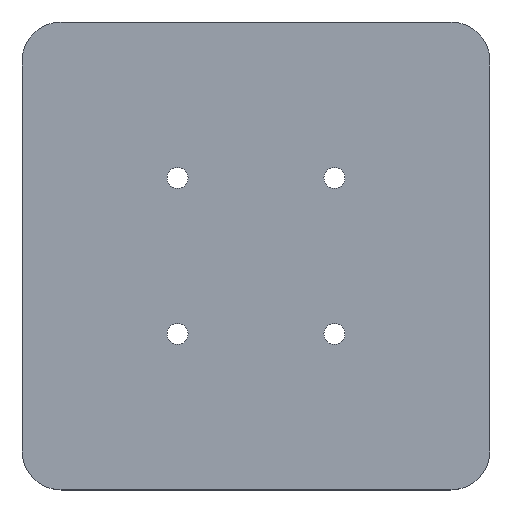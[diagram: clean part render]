
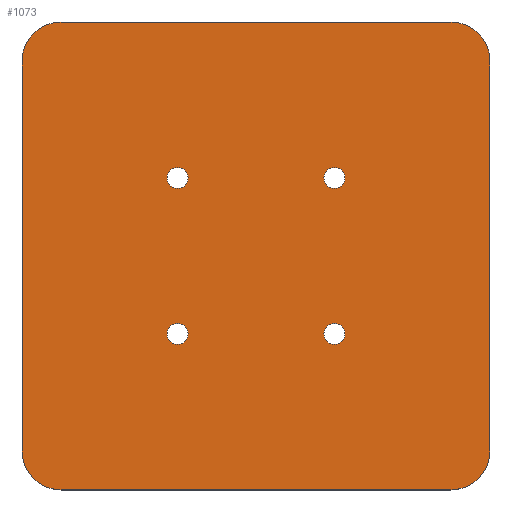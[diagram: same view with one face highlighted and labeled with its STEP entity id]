
A CAD part, top view. The second image highlights one B-rep face of the part: STEP entity #1073.
In plain terms, the highlighted planar face has unit normal (0, 0, 1).
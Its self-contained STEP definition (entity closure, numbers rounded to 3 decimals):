
#19 = AXIS2_PLACEMENT_3D ( 'NONE', #320, #1016, #405 ) ;
#22 = CARTESIAN_POINT ( 'NONE',  ( -70., -143.404, 6. ) ) ;
#31 = ORIENTED_EDGE ( 'NONE', *, *, #169, .F. ) ;
#45 = VERTEX_POINT ( 'NONE', #1037 ) ;
#48 = DIRECTION ( 'NONE',  ( 0., -1., 0. ) ) ;
#52 = CIRCLE ( 'NONE', #93, 10. ) ;
#61 = CARTESIAN_POINT ( 'NONE',  ( -30.113, -113.404, 6. ) ) ;
#66 = ORIENTED_EDGE ( 'NONE', *, *, #338, .F. ) ;
#67 = PLANE ( 'NONE',  #695 ) ;
#75 = FACE_OUTER_BOUND ( 'NONE', #896, .T. ) ;
#93 = AXIS2_PLACEMENT_3D ( 'NONE', #495, #1261, #374 ) ;
#120 = CIRCLE ( 'NONE', #536, 2.7 ) ;
#123 = DIRECTION ( 'NONE',  ( -1., 0., 0. ) ) ;
#153 = CIRCLE ( 'NONE', #444, 10. ) ;
#156 = CARTESIAN_POINT ( 'NONE',  ( -70., -33.404, 6. ) ) ;
#164 = VERTEX_POINT ( 'NONE', #569 ) ;
#169 = EDGE_CURVE ( 'NONE', #831, #45, #321, .T. ) ;
#170 = VERTEX_POINT ( 'NONE', #1046 ) ;
#174 = DIRECTION ( 'NONE',  ( 1., 0., 0. ) ) ;
#185 = CARTESIAN_POINT ( 'NONE',  ( -27.413, -113.404, 6. ) ) ;
#194 = CIRCLE ( 'NONE', #508, 10. ) ;
#217 = AXIS2_PLACEMENT_3D ( 'NONE', #61, #455, #854 ) ;
#218 = CARTESIAN_POINT ( 'NONE',  ( 10.113, -73.404, 6. ) ) ;
#219 = CARTESIAN_POINT ( 'NONE',  ( 40., -33.404, 6. ) ) ;
#231 = CARTESIAN_POINT ( 'NONE',  ( -60., -143.404, 6. ) ) ;
#255 = VECTOR ( 'NONE', #606, 1000. ) ;
#262 = EDGE_CURVE ( 'NONE', #164, #887, #1053, .T. ) ;
#283 = VERTEX_POINT ( 'NONE', #185 ) ;
#288 = VERTEX_POINT ( 'NONE', #582 ) ;
#297 = CARTESIAN_POINT ( 'NONE',  ( 50., -33.404, 6. ) ) ;
#303 = CARTESIAN_POINT ( 'NONE',  ( 7.413, -113.404, 6. ) ) ;
#320 = CARTESIAN_POINT ( 'NONE',  ( -30.113, -73.404, 6. ) ) ;
#321 = CIRCLE ( 'NONE', #888, 2.7 ) ;
#331 = DIRECTION ( 'NONE',  ( 0., 0., 1. ) ) ;
#334 = VERTEX_POINT ( 'NONE', #820 ) ;
#338 = EDGE_CURVE ( 'NONE', #1038, #449, #120, .T. ) ;
#340 = DIRECTION ( 'NONE',  ( 1., 0., 0. ) ) ;
#342 = EDGE_CURVE ( 'NONE', #449, #1038, #721, .T. ) ;
#347 = CARTESIAN_POINT ( 'NONE',  ( 40., -43.404, 6. ) ) ;
#374 = DIRECTION ( 'NONE',  ( 1., 0., 0. ) ) ;
#385 = DIRECTION ( 'NONE',  ( 0., 0., 1. ) ) ;
#389 = VERTEX_POINT ( 'NONE', #723 ) ;
#391 = ORIENTED_EDGE ( 'NONE', *, *, #262, .F. ) ;
#405 = DIRECTION ( 'NONE',  ( 1., 0., 0. ) ) ;
#422 = CIRCLE ( 'NONE', #532, 2.7 ) ;
#423 = DIRECTION ( 'NONE',  ( 1., 0., 0. ) ) ;
#444 = AXIS2_PLACEMENT_3D ( 'NONE', #231, #933, #340 ) ;
#449 = VERTEX_POINT ( 'NONE', #743 ) ;
#451 = CARTESIAN_POINT ( 'NONE',  ( -30.113, -113.404, 6. ) ) ;
#454 = EDGE_CURVE ( 'NONE', #785, #288, #153, .T. ) ;
#455 = DIRECTION ( 'NONE',  ( 0., 0., 1. ) ) ;
#462 = DIRECTION ( 'NONE',  ( 0., 0., 1. ) ) ;
#469 = FACE_BOUND ( 'NONE', #510, .T. ) ;
#470 = EDGE_CURVE ( 'NONE', #711, #785, #1227, .T. ) ;
#475 = ORIENTED_EDGE ( 'NONE', *, *, #511, .T. ) ;
#476 = DIRECTION ( 'NONE',  ( 1., 0., 0. ) ) ;
#477 = CARTESIAN_POINT ( 'NONE',  ( 10.113, -73.404, 6. ) ) ;
#484 = CARTESIAN_POINT ( 'NONE',  ( 10.113, -113.404, 6. ) ) ;
#495 = CARTESIAN_POINT ( 'NONE',  ( -60., -43.404, 6. ) ) ;
#504 = ORIENTED_EDGE ( 'NONE', *, *, #470, .T. ) ;
#505 = LINE ( 'NONE', #713, #255 ) ;
#508 = AXIS2_PLACEMENT_3D ( 'NONE', #347, #1220, #952 ) ;
#509 = CIRCLE ( 'NONE', #217, 2.7 ) ;
#510 = EDGE_LOOP ( 'NONE', ( #641, #391 ) ) ;
#511 = EDGE_CURVE ( 'NONE', #389, #769, #194, .T. ) ;
#518 = ORIENTED_EDGE ( 'NONE', *, *, #1082, .F. ) ;
#520 = CARTESIAN_POINT ( 'NONE',  ( 7.413, -73.404, 6. ) ) ;
#530 = EDGE_CURVE ( 'NONE', #334, #283, #925, .T. ) ;
#532 = AXIS2_PLACEMENT_3D ( 'NONE', #218, #385, #1186 ) ;
#536 = AXIS2_PLACEMENT_3D ( 'NONE', #1206, #701, #625 ) ;
#559 = ORIENTED_EDGE ( 'NONE', *, *, #530, .F. ) ;
#561 = FACE_BOUND ( 'NONE', #776, .T. ) ;
#569 = CARTESIAN_POINT ( 'NONE',  ( 12.813, -73.404, 6. ) ) ;
#582 = CARTESIAN_POINT ( 'NONE',  ( -60., -153.404, 6. ) ) ;
#606 = DIRECTION ( 'NONE',  ( 0., 1., 0. ) ) ;
#625 = DIRECTION ( 'NONE',  ( 1., 0., 0. ) ) ;
#641 = ORIENTED_EDGE ( 'NONE', *, *, #1275, .F. ) ;
#654 = CIRCLE ( 'NONE', #1184, 10. ) ;
#659 = ORIENTED_EDGE ( 'NONE', *, *, #916, .T. ) ;
#693 = CARTESIAN_POINT ( 'NONE',  ( -70., -153.404, 6. ) ) ;
#695 = AXIS2_PLACEMENT_3D ( 'NONE', #777, #786, #476 ) ;
#701 = DIRECTION ( 'NONE',  ( 0., 0., 1. ) ) ;
#707 = LINE ( 'NONE', #297, #803 ) ;
#711 = VERTEX_POINT ( 'NONE', #893 ) ;
#713 = CARTESIAN_POINT ( 'NONE',  ( 50., -153.404, 6. ) ) ;
#717 = VECTOR ( 'NONE', #423, 1000. ) ;
#721 = CIRCLE ( 'NONE', #19, 2.7 ) ;
#723 = CARTESIAN_POINT ( 'NONE',  ( 50., -43.404, 6. ) ) ;
#729 = EDGE_CURVE ( 'NONE', #1023, #711, #52, .T. ) ;
#743 = CARTESIAN_POINT ( 'NONE',  ( -32.813, -73.404, 6. ) ) ;
#761 = EDGE_CURVE ( 'NONE', #1009, #389, #505, .T. ) ;
#769 = VERTEX_POINT ( 'NONE', #219 ) ;
#776 = EDGE_LOOP ( 'NONE', ( #559, #1201 ) ) ;
#777 = CARTESIAN_POINT ( 'NONE',  ( 0., 0., 6. ) ) ;
#785 = VERTEX_POINT ( 'NONE', #22 ) ;
#786 = DIRECTION ( 'NONE',  ( 0., 0., 1. ) ) ;
#803 = VECTOR ( 'NONE', #123, 1000. ) ;
#820 = CARTESIAN_POINT ( 'NONE',  ( -32.813, -113.404, 6. ) ) ;
#831 = VERTEX_POINT ( 'NONE', #303 ) ;
#836 = ORIENTED_EDGE ( 'NONE', *, *, #852, .T. ) ;
#844 = CIRCLE ( 'NONE', #1205, 2.7 ) ;
#850 = DIRECTION ( 'NONE',  ( 1., 0., 0. ) ) ;
#852 = EDGE_CURVE ( 'NONE', #769, #1023, #707, .T. ) ;
#854 = DIRECTION ( 'NONE',  ( 1., 0., 0. ) ) ;
#873 = EDGE_LOOP ( 'NONE', ( #31, #518 ) ) ;
#875 = DIRECTION ( 'NONE',  ( 1., 0., 0. ) ) ;
#887 = VERTEX_POINT ( 'NONE', #520 ) ;
#888 = AXIS2_PLACEMENT_3D ( 'NONE', #484, #1169, #174 ) ;
#891 = DIRECTION ( 'NONE',  ( 0., 0., 1. ) ) ;
#893 = CARTESIAN_POINT ( 'NONE',  ( -70., -43.404, 6. ) ) ;
#896 = EDGE_LOOP ( 'NONE', ( #504, #1049, #659, #909, #1189, #475, #836, #901 ) ) ;
#901 = ORIENTED_EDGE ( 'NONE', *, *, #729, .T. ) ;
#909 = ORIENTED_EDGE ( 'NONE', *, *, #1145, .T. ) ;
#914 = ORIENTED_EDGE ( 'NONE', *, *, #342, .F. ) ;
#916 = EDGE_CURVE ( 'NONE', #288, #170, #1180, .T. ) ;
#925 = CIRCLE ( 'NONE', #1225, 2.7 ) ;
#933 = DIRECTION ( 'NONE',  ( 0., 0., 1. ) ) ;
#950 = CARTESIAN_POINT ( 'NONE',  ( 50., -143.404, 6. ) ) ;
#952 = DIRECTION ( 'NONE',  ( 1., 0., 0. ) ) ;
#971 = AXIS2_PLACEMENT_3D ( 'NONE', #477, #891, #875 ) ;
#1009 = VERTEX_POINT ( 'NONE', #950 ) ;
#1016 = DIRECTION ( 'NONE',  ( 0., 0., 1. ) ) ;
#1023 = VERTEX_POINT ( 'NONE', #1224 ) ;
#1037 = CARTESIAN_POINT ( 'NONE',  ( 12.813, -113.404, 6. ) ) ;
#1038 = VERTEX_POINT ( 'NONE', #1058 ) ;
#1046 = CARTESIAN_POINT ( 'NONE',  ( 40., -153.404, 6. ) ) ;
#1049 = ORIENTED_EDGE ( 'NONE', *, *, #454, .T. ) ;
#1053 = CIRCLE ( 'NONE', #971, 2.7 ) ;
#1058 = CARTESIAN_POINT ( 'NONE',  ( -27.413, -73.404, 6. ) ) ;
#1063 = CARTESIAN_POINT ( 'NONE',  ( 10.113, -113.404, 6. ) ) ;
#1073 = ADVANCED_FACE ( 'NONE', ( #1245, #1075, #75, #469, #561 ), #67, .T. ) ;
#1075 = FACE_BOUND ( 'NONE', #1149, .T. ) ;
#1082 = EDGE_CURVE ( 'NONE', #45, #831, #844, .T. ) ;
#1143 = EDGE_CURVE ( 'NONE', #283, #334, #509, .T. ) ;
#1145 = EDGE_CURVE ( 'NONE', #170, #1009, #654, .T. ) ;
#1149 = EDGE_LOOP ( 'NONE', ( #914, #66 ) ) ;
#1156 = DIRECTION ( 'NONE',  ( 0., 0., 1. ) ) ;
#1157 = DIRECTION ( 'NONE',  ( 1., 0., 0. ) ) ;
#1168 = DIRECTION ( 'NONE',  ( 1., 0., 0. ) ) ;
#1169 = DIRECTION ( 'NONE',  ( 0., 0., 1. ) ) ;
#1180 = LINE ( 'NONE', #693, #717 ) ;
#1183 = VECTOR ( 'NONE', #48, 1000. ) ;
#1184 = AXIS2_PLACEMENT_3D ( 'NONE', #1239, #462, #1157 ) ;
#1186 = DIRECTION ( 'NONE',  ( 1., 0., 0. ) ) ;
#1189 = ORIENTED_EDGE ( 'NONE', *, *, #761, .T. ) ;
#1201 = ORIENTED_EDGE ( 'NONE', *, *, #1143, .F. ) ;
#1205 = AXIS2_PLACEMENT_3D ( 'NONE', #1063, #1156, #1168 ) ;
#1206 = CARTESIAN_POINT ( 'NONE',  ( -30.113, -73.404, 6. ) ) ;
#1220 = DIRECTION ( 'NONE',  ( 0., 0., 1. ) ) ;
#1224 = CARTESIAN_POINT ( 'NONE',  ( -60., -33.404, 6. ) ) ;
#1225 = AXIS2_PLACEMENT_3D ( 'NONE', #451, #331, #850 ) ;
#1227 = LINE ( 'NONE', #156, #1183 ) ;
#1239 = CARTESIAN_POINT ( 'NONE',  ( 40., -143.404, 6. ) ) ;
#1245 = FACE_BOUND ( 'NONE', #873, .T. ) ;
#1261 = DIRECTION ( 'NONE',  ( 0., 0., 1. ) ) ;
#1275 = EDGE_CURVE ( 'NONE', #887, #164, #422, .T. ) ;
